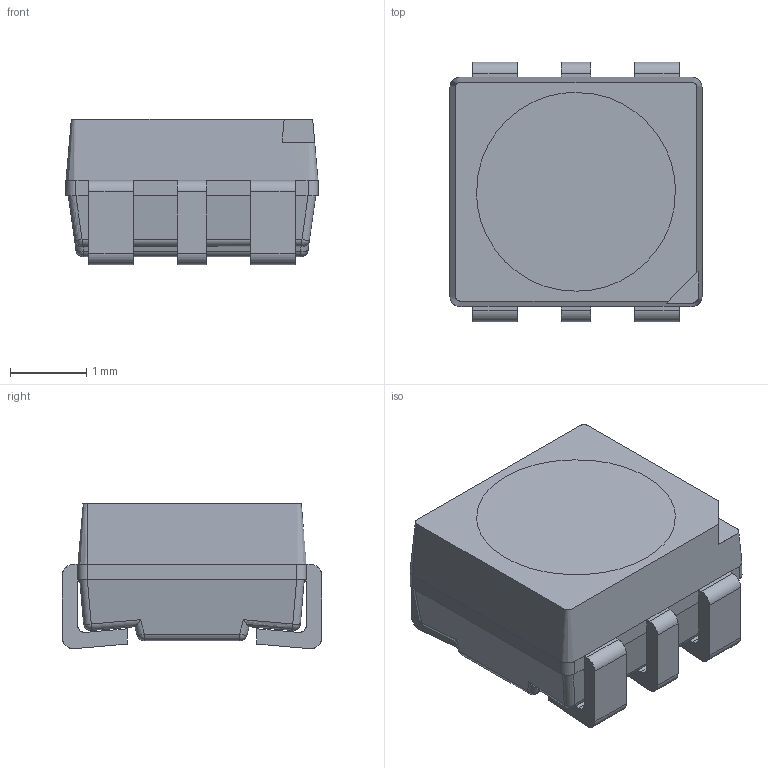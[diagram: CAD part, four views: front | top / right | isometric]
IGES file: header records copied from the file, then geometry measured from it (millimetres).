
Start section: SolidWorks IGES file using analytic representation for surfaces
Global section: file name: C:\Users\user\Desktop\SW22\ヶ蚾陬腑3D恅璃\LRC.IGS; native system: SolidWorks 2022; preprocessor: SolidWorks 2022; author: user; date: 240125.035132; units: millimetre
Bounding box: 3.3 x 3.4 x 1.9 mm (x, y, z)
Surface area: 53.6 mm2 (no closed solid volume)
Topology: 0 solids, 0 shells, 138 faces, 1065 edges, 1055 vertices
Faces by surface type: bspline 80, revolution 58
